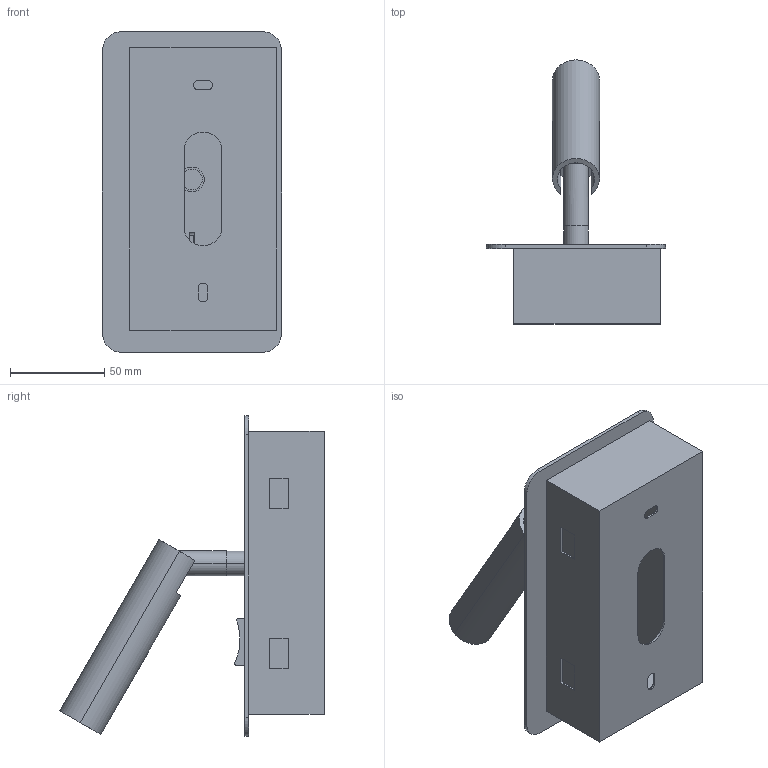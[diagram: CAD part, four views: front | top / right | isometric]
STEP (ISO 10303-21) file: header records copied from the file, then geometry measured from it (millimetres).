
FILE_DESCRIPTION(/* description */ (''),/* implementation_level */ '2;1');
FILE_NAME(/* name */ 'C:\Users\Franco Sartori E\Documents\FARO\DUPLICADO\Modelos\01_Digitalizados\0_SUAU\03_Publicación\62126 - Vista 3D - Export.stp',/* time_stamp */ '2020-07-14T11:51:45+02:00',/* author */ ('Franco Sartori E'),/* organization */ (''),/* preprocessor_version */ 'ST-DEVELOPER v18',/* originating_system */ 'AutoCAD Mechanical',/* authorisation */ '');
FILE_SCHEMA (('AUTOMOTIVE_DESIGN { 1 0 10303 214 3 1 1 }'));
Length unit declared in the file: millimetre
Products named in the file (2): Product; 62114_62126_62128_62129 - SUAU-395089-Export
Assembly tree (1 placements, depth 2):
  Product
    62114_62126_62128_62129 - SUAU-395089-Export
Bounding box: 95 x 140.12 x 170 mm (x, y, z)
Volume: 94074.2 mm3; surface area: 128323.1 mm2
Topology: 6 solids, 7 shells, 116 faces, 309 edges, 205 vertices
Faces by surface type: plane 73, cylinder 40, torus 3
Entity records: 3857 total; most frequent: CARTESIAN_POINT 833, DIRECTION 610, ORIENTED_EDGE 594, EDGE_CURVE 309, LINE 218, VECTOR 218, VERTEX_POINT 205, AXIS2_PLACEMENT_3D 196
